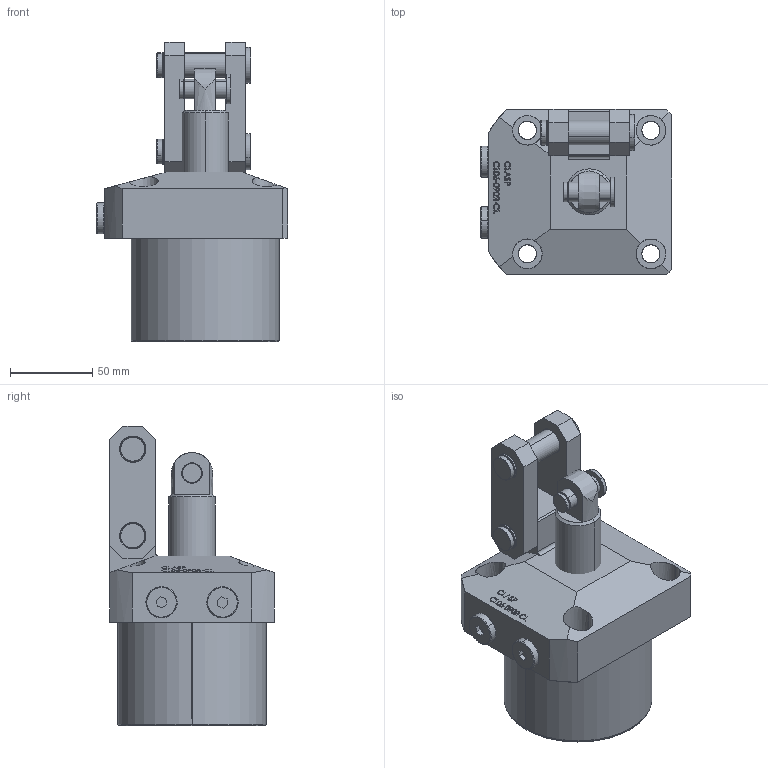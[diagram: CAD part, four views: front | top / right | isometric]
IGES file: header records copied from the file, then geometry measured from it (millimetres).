
Start section: SolidWorks IGES file using analytic representation for surfaces
Global section: file name: D:\karuppas\Clasp\3D model\Link clamp cylinder\CL06--0902-CL\CL06-0902 cl.IGS; native system: SolidWorks 2017; preprocessor: SolidWorks 2017; author: pc; date: 220705.231357; units: millimetre
Bounding box: 116 x 100 x 182 mm (x, y, z)
Surface area: 97428.3 mm2 (no closed solid volume)
Topology: 0 solids, 0 shells, 404 faces, 6362 edges, 6358 vertices
Faces by surface type: bspline 275, revolution 129
